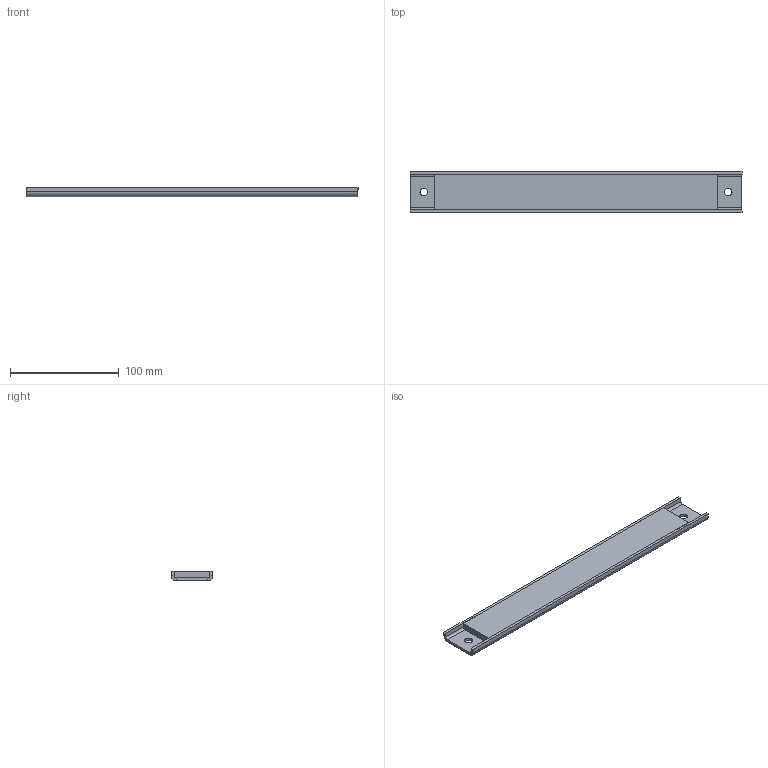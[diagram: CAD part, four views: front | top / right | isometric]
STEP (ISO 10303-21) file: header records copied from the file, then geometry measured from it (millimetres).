
FILE_DESCRIPTION (( 'STEP AP203' ), '1' );
FILE_NAME ('MQ1129.STEP', '2018-07-27T15:57:15', ( '' ), ( '' ), 'SwSTEP 2.0', 'SolidWorks 2015', '' );
FILE_SCHEMA (( 'CONFIG_CONTROL_DESIGN' ));
Length unit declared in the file: inch
Products named in the file (1): MQ1129
Bounding box: 304.8 x 38.1 x 8.64 mm (x, y, z)
Volume: 88943.5 mm3; surface area: 51443.5 mm2
Topology: 2 solids, 2 shells, 32 faces, 68 edges, 40 vertices
Faces by surface type: plane 24, cylinder 8
Entity records: 925 total; most frequent: DIRECTION 150, CARTESIAN_POINT 141, ORIENTED_EDGE 136, EDGE_CURVE 68, LINE 52, VECTOR 52, AXIS2_PLACEMENT_3D 49, VERTEX_POINT 40
